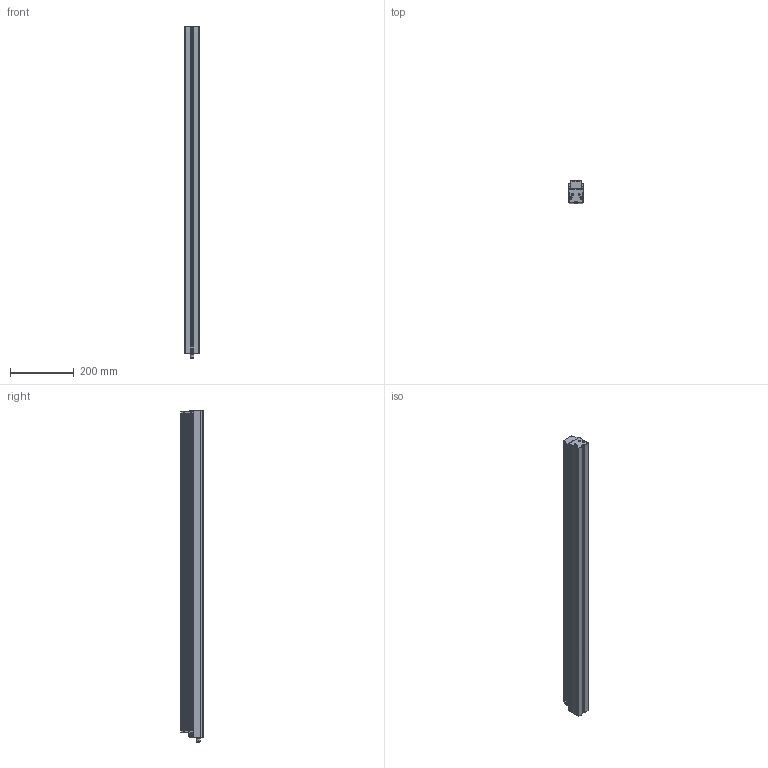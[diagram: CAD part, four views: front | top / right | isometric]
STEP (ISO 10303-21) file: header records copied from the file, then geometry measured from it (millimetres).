
FILE_DESCRIPTION (( 'STEP AP214' ), '1' );
FILE_NAME ('ELINE-EC-1000-xxx-xx_CLIENT.STEP', '2026-06-08T12:11:39', ( '' ), ( '' ), 'SwSTEP 2.0', 'SolidWorks 2025', '' );
FILE_SCHEMA (( 'AUTOMOTIVE_DESIGN' ));
Length unit declared in the file: millimetre
Products named in the file (3): ELINE-EC-xxx-xxx-xx_CLIENT_1000; ELINE-EC-1000-xxx-xx_CLIENT; 1-X2014-01-3-A_1
Assembly tree (7 placements, depth 2):
  ELINE-EC-1000-xxx-xx_CLIENT
    ELINE-EC-xxx-xxx-xx_CLIENT_1000
    1-X2014-01-3-A_1  x6
Bounding box: 47.7 x 70.9 x 1045.05 mm (x, y, z)
Volume: 2900486.4 mm3; surface area: 278022.6 mm2
Topology: 7 solids, 7 shells, 1034 faces, 2679 edges, 1727 vertices
Faces by surface type: plane 490, cylinder 314, bspline 140, torus 64, cone 22, sphere 4
Entity records: 32626 total; most frequent: CARTESIAN_POINT 10873, ORIENTED_EDGE 4684, DIRECTION 4140, EDGE_CURVE 2342, VERTEX_POINT 1518, AXIS2_PLACEMENT_3D 1412, LINE 1316, VECTOR 1316
